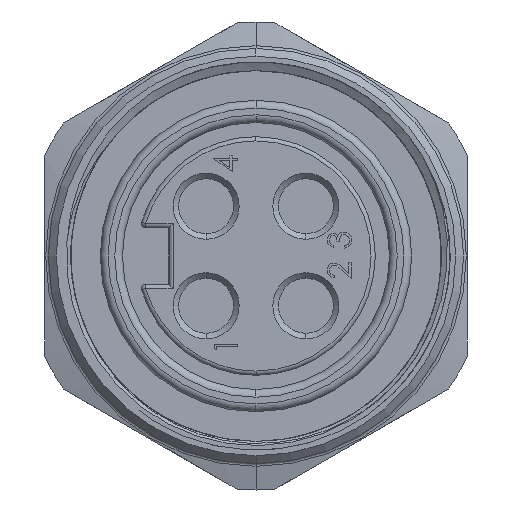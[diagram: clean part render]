
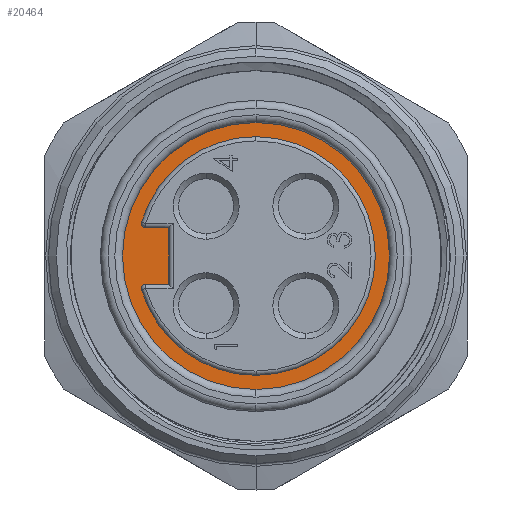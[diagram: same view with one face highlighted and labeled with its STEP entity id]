
A CAD part, left-side view. The second image highlights one B-rep face of the part: STEP entity #20464.
In plain terms, the highlighted planar face has unit normal (-1, 0, 0).
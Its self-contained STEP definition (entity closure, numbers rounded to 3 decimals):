
#86 = VERTEX_POINT ( 'NONE', #10421 ) ;
#295 = CARTESIAN_POINT ( 'NONE',  ( 8.519, 7.85, 2.55 ) ) ;
#508 = VERTEX_POINT ( 'NONE', #19859 ) ;
#940 = EDGE_LOOP ( 'NONE', ( #14513, #20949 ) ) ;
#1010 = DIRECTION ( 'NONE',  ( 0., 0., -1. ) ) ;
#1200 = VECTOR ( 'NONE', #16044, 1000. ) ;
#1351 = DIRECTION ( 'NONE',  ( 0., 0., -1. ) ) ;
#1357 = AXIS2_PLACEMENT_3D ( 'NONE', #12078, #8326, #6809 ) ;
#1415 = CIRCLE ( 'NONE', #16419, 10.75 ) ;
#2275 = ORIENTED_EDGE ( 'NONE', *, *, #14838, .F. ) ;
#2513 = EDGE_CURVE ( 'NONE', #10636, #20138, #8480, .T. ) ;
#2863 = ORIENTED_EDGE ( 'NONE', *, *, #22015, .T. ) ;
#2886 = CARTESIAN_POINT ( 'NONE',  ( 8.519, 10.312, 3.039 ) ) ;
#2899 = CARTESIAN_POINT ( 'NONE',  ( 8.519, 0., 0. ) ) ;
#2935 = AXIS2_PLACEMENT_3D ( 'NONE', #17753, #16087, #1010 ) ;
#3053 = CARTESIAN_POINT ( 'NONE',  ( 8.519, 9.946, -2.931 ) ) ;
#3255 = VERTEX_POINT ( 'NONE', #3347 ) ;
#3347 = CARTESIAN_POINT ( 'NONE',  ( 8.519, 0., 12.025 ) ) ;
#3421 = EDGE_CURVE ( 'NONE', #16836, #4735, #9233, .T. ) ;
#3476 = AXIS2_PLACEMENT_3D ( 'NONE', #6888, #7114, #8858 ) ;
#4259 = EDGE_CURVE ( 'NONE', #20138, #7470, #19155, .T. ) ;
#4351 = CIRCLE ( 'NONE', #1357, 10.75 ) ;
#4527 = CARTESIAN_POINT ( 'NONE',  ( 8.519, 7.85, -2.55 ) ) ;
#4593 = DIRECTION ( 'NONE',  ( 0., 0., 1. ) ) ;
#4735 = VERTEX_POINT ( 'NONE', #11764 ) ;
#4834 = VECTOR ( 'NONE', #4593, 1000. ) ;
#4910 = DIRECTION ( 'NONE',  ( 0., 0., 1. ) ) ;
#5582 = ORIENTED_EDGE ( 'NONE', *, *, #3421, .T. ) ;
#6253 = DIRECTION ( 'NONE',  ( -1., 0., 0. ) ) ;
#6750 = CARTESIAN_POINT ( 'NONE',  ( 8.519, 7.85, 2.55 ) ) ;
#6809 = DIRECTION ( 'NONE',  ( 0., 0., 1. ) ) ;
#6819 = ORIENTED_EDGE ( 'NONE', *, *, #18706, .F. ) ;
#6888 = CARTESIAN_POINT ( 'NONE',  ( 8.519, 0., 0. ) ) ;
#7114 = DIRECTION ( 'NONE',  ( -1., 0., 0. ) ) ;
#7331 = CARTESIAN_POINT ( 'NONE',  ( 8.519, 7.85, -2.55 ) ) ;
#7401 = ORIENTED_EDGE ( 'NONE', *, *, #4259, .T. ) ;
#7470 = VERTEX_POINT ( 'NONE', #2886 ) ;
#7685 = CARTESIAN_POINT ( 'NONE',  ( 8.519, 0., -10.75 ) ) ;
#7706 = CIRCLE ( 'NONE', #3476, 12.025 ) ;
#8005 = AXIS2_PLACEMENT_3D ( 'NONE', #18339, #14738, #4910 ) ;
#8326 = DIRECTION ( 'NONE',  ( -1., 0., 0. ) ) ;
#8480 = LINE ( 'NONE', #295, #13354 ) ;
#8484 = VERTEX_POINT ( 'NONE', #12096 ) ;
#8858 = DIRECTION ( 'NONE',  ( 0., 0., 1. ) ) ;
#8861 = AXIS2_PLACEMENT_3D ( 'NONE', #3053, #20188, #1351 ) ;
#9233 = LINE ( 'NONE', #7331, #1200 ) ;
#10421 = CARTESIAN_POINT ( 'NONE',  ( 8.519, 0., 10.75 ) ) ;
#10444 = ORIENTED_EDGE ( 'NONE', *, *, #12729, .T. ) ;
#10636 = VERTEX_POINT ( 'NONE', #6750 ) ;
#11234 = DIRECTION ( 'NONE',  ( 0., 0., 1. ) ) ;
#11309 = CARTESIAN_POINT ( 'NONE',  ( 8.519, 0., 0. ) ) ;
#11764 = CARTESIAN_POINT ( 'NONE',  ( 8.519, 7.85, -2.55 ) ) ;
#11876 = CARTESIAN_POINT ( 'NONE',  ( 8.519, 9.946, 2.55 ) ) ;
#12078 = CARTESIAN_POINT ( 'NONE',  ( 8.519, 0., 0. ) ) ;
#12096 = CARTESIAN_POINT ( 'NONE',  ( 8.519, 10.312, -3.039 ) ) ;
#12526 = EDGE_CURVE ( 'NONE', #8484, #17626, #16545, .T. ) ;
#12729 = EDGE_CURVE ( 'NONE', #8484, #16836, #17636, .T. ) ;
#12876 = DIRECTION ( 'NONE',  ( 0., 0., 1. ) ) ;
#13196 = DIRECTION ( 'NONE',  ( 0., 0., 1. ) ) ;
#13354 = VECTOR ( 'NONE', #15757, 1000. ) ;
#13834 = CIRCLE ( 'NONE', #15898, 12.025 ) ;
#14008 = LINE ( 'NONE', #4527, #4834 ) ;
#14104 = EDGE_LOOP ( 'NONE', ( #10444, #5582, #2863, #21451, #7401, #2275, #6819, #21940 ) ) ;
#14513 = ORIENTED_EDGE ( 'NONE', *, *, #21696, .T. ) ;
#14738 = DIRECTION ( 'NONE',  ( -1., 0., 0. ) ) ;
#14779 = FACE_BOUND ( 'NONE', #14104, .T. ) ;
#14838 = EDGE_CURVE ( 'NONE', #86, #7470, #1415, .T. ) ;
#15757 = DIRECTION ( 'NONE',  ( 0., 1., 0. ) ) ;
#15898 = AXIS2_PLACEMENT_3D ( 'NONE', #17758, #17910, #12876 ) ;
#16044 = DIRECTION ( 'NONE',  ( 0., -1., 0. ) ) ;
#16087 = DIRECTION ( 'NONE',  ( 1., 0., 0. ) ) ;
#16419 = AXIS2_PLACEMENT_3D ( 'NONE', #11309, #6253, #11234 ) ;
#16545 = CIRCLE ( 'NONE', #8005, 10.75 ) ;
#16706 = PLANE ( 'NONE',  #22196 ) ;
#16836 = VERTEX_POINT ( 'NONE', #17336 ) ;
#17336 = CARTESIAN_POINT ( 'NONE',  ( 8.519, 9.946, -2.55 ) ) ;
#17626 = VERTEX_POINT ( 'NONE', #7685 ) ;
#17636 = CIRCLE ( 'NONE', #8861, 0.381 ) ;
#17639 = EDGE_CURVE ( 'NONE', #508, #3255, #13834, .T. ) ;
#17753 = CARTESIAN_POINT ( 'NONE',  ( 8.519, 9.946, 2.931 ) ) ;
#17758 = CARTESIAN_POINT ( 'NONE',  ( 8.519, 0., 0. ) ) ;
#17910 = DIRECTION ( 'NONE',  ( -1., 0., 0. ) ) ;
#18339 = CARTESIAN_POINT ( 'NONE',  ( 8.519, 0., 0. ) ) ;
#18706 = EDGE_CURVE ( 'NONE', #17626, #86, #4351, .T. ) ;
#19155 = CIRCLE ( 'NONE', #2935, 0.381 ) ;
#19859 = CARTESIAN_POINT ( 'NONE',  ( 8.519, 0., -12.025 ) ) ;
#20138 = VERTEX_POINT ( 'NONE', #11876 ) ;
#20188 = DIRECTION ( 'NONE',  ( 1., 0., 0. ) ) ;
#20244 = DIRECTION ( 'NONE',  ( -1., 0., 0. ) ) ;
#20464 = ADVANCED_FACE ( 'NONE', ( #14779, #20939 ), #16706, .T. ) ;
#20939 = FACE_OUTER_BOUND ( 'NONE', #940, .T. ) ;
#20949 = ORIENTED_EDGE ( 'NONE', *, *, #17639, .T. ) ;
#21451 = ORIENTED_EDGE ( 'NONE', *, *, #2513, .T. ) ;
#21696 = EDGE_CURVE ( 'NONE', #3255, #508, #7706, .T. ) ;
#21940 = ORIENTED_EDGE ( 'NONE', *, *, #12526, .F. ) ;
#22015 = EDGE_CURVE ( 'NONE', #4735, #10636, #14008, .T. ) ;
#22196 = AXIS2_PLACEMENT_3D ( 'NONE', #2899, #20244, #13196 ) ;
